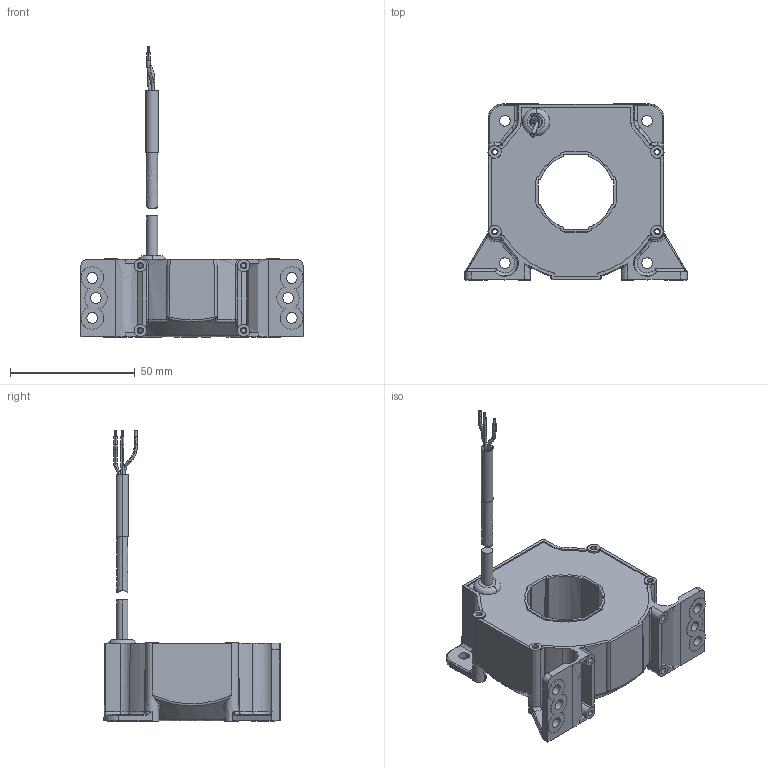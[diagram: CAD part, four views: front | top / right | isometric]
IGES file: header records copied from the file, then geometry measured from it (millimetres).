
Start section: Elysium IGES Interface
Global section: file name: \\Gva50\sd-data\Etudes\GVu\Serie_blackbox\LF 505-S\LF 505-S_SP23_blackbox\LF 505-S_SP23_Blackbox.igs; native system: SolidDesigner 16.00A  16-Aug-2008; preprocessor: CoCreate IGES_3D V2.2; author: Unknown; organization: Unknown; date: 20090427.145535; units: millimetre
Bounding box: 89 x 70.57 x 116.57 mm (x, y, z)
Volume: 105737.3 mm3; surface area: 29003.9 mm2
Topology: 11 solids, 11 shells, 1124 faces, 2948 edges, 1906 vertices
Faces by surface type: bspline 1124
